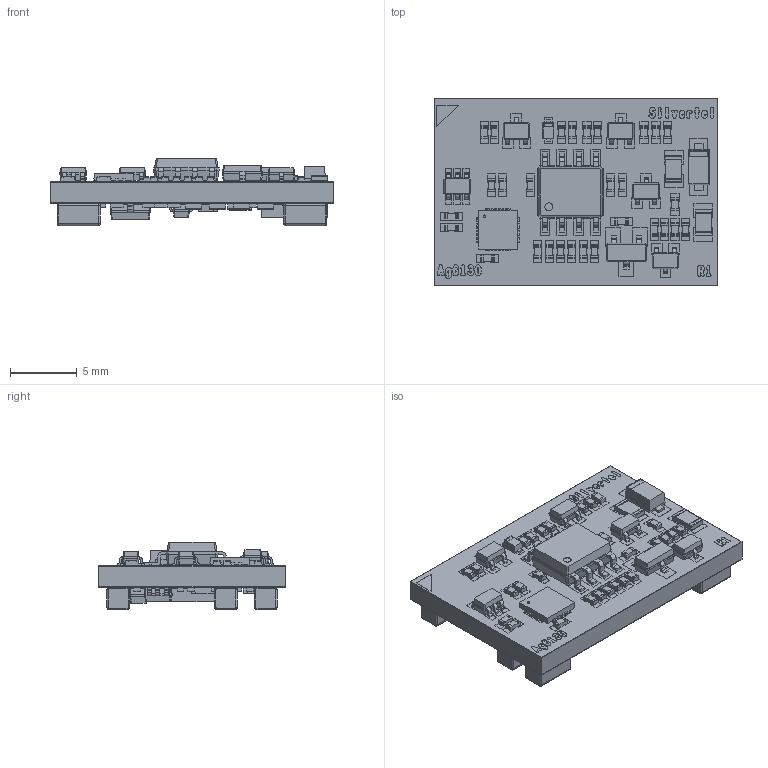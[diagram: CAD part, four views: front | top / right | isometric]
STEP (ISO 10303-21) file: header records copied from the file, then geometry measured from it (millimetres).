
FILE_DESCRIPTION(('FreeCAD Model'),'2;1');
FILE_NAME('Open CASCADE Shape Model','2025-11-28T09:41:08',(''),(''), 'Open CASCADE STEP processor 7.8','FreeCAD','Unknown');
FILE_SCHEMA(('AUTOMOTIVE_DESIGN { 1 0 10303 214 1 1 1 1 }'));
Products named in the file (1): Ag6130_Detailed
Bounding box: 21.21 x 13.92 x 5.06 mm (x, y, z)
Volume: 617.6 mm3; surface area: 2186.4 mm2
Topology: 88 solids, 89 shells, 3792 faces, 10299 edges, 6688 vertices
Faces by surface type: extrusion 2565, revolution 906, bspline 321
Entity records: 126237 total; most frequent: CARTESIAN_POINT 23097, ORIENTED_EDGE 20588, DIRECTION 18681, VECTOR 14149, LINE 11584, EDGE_CURVE 10295, VERTEX_POINT 6688, FACE_BOUND 4235
